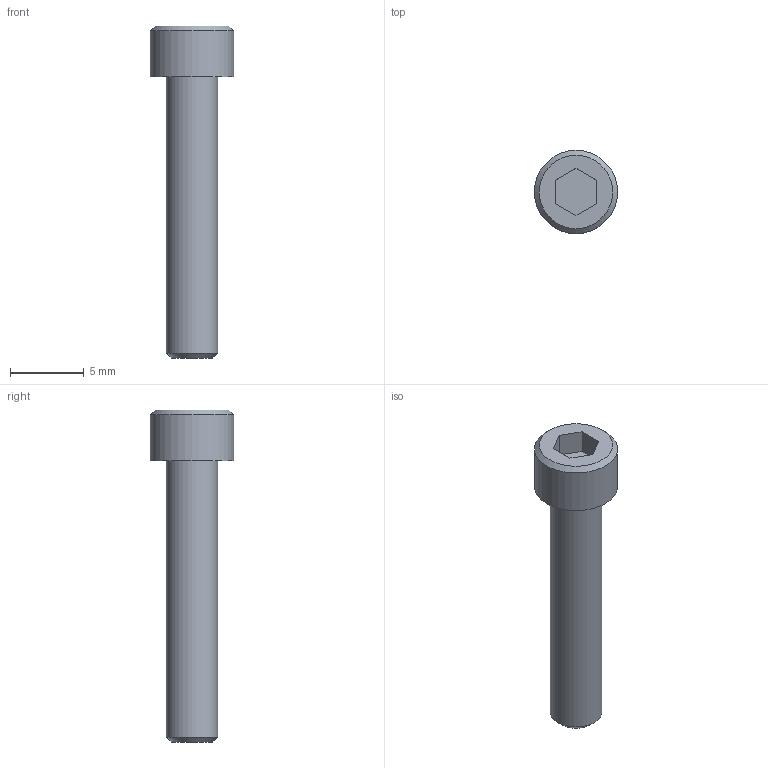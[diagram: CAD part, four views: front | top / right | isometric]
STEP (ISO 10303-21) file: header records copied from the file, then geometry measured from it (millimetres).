
FILE_DESCRIPTION((''),'2;1');
FILE_NAME('C:\Users\Stan\Desktop\import\SHCS 6-32 UNCx0.75.ipt.step','2011-08-18T17:44:43',(''),(''),'Autodesk Inventor 2012','Autodesk Inventor 2012','');
FILE_SCHEMA(('AUTOMOTIVE_DESIGN { 1 0 10303 214 1 1 1 1 }'));
Length unit declared in the file: inch
Products named in the file (1): SHCS 6-32 UNCx0.75
Bounding box: 5.64 x 5.64 x 22.5 mm (x, y, z)
Volume: 257.8 mm3; surface area: 330.7 mm2
Topology: 1 solids, 1 shells, 14 faces, 28 edges, 18 vertices
Faces by surface type: plane 10, cone 2, cylinder 2
Full cylindrical faces by diameter (mm): 3.505 x1, 5.639 x1
Entity records: 391 total; most frequent: DIRECTION 60, CARTESIAN_POINT 57, ORIENTED_EDGE 48, EDGE_CURVE 24, AXIS2_PLACEMENT_3D 21, EDGE_LOOP 20, VERTEX_POINT 18, VECTOR 18
